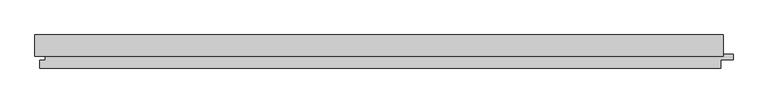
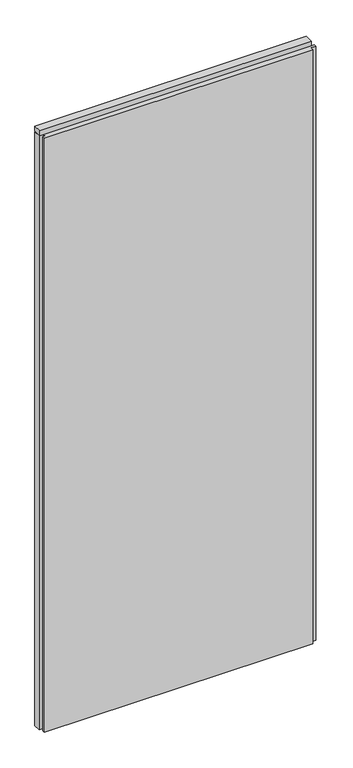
"""IFC4 building model written with IfcOpenShell, lengths in millimetres: plate geometry, Trimo_Qbiss Screen_Normal Panel-VERTICAL : HR - FB-F."""

from ifc_helpers import new_model, si_unit, frame, origin, place, context, project, spatial, polyline, outline, extrude, source, transform, mapped, element, save


def plate_48ea04e7(model_context):
    return source(origin(), model_context, "Body", "SweptSolid", [
        extrude(outline(polyline([(-513.0, 93.9), (-513.0, 126.0), (513.0, 126.0), (513.0, 93.9), (-513.0, 93.9)])), frame((0.0, 0.0, 2390.5), z_axis=(0.0, 0.0, 1.0), x_axis=(1.0, 0.0, 0.0)), (0.0, 0.0, 1.0), 19.0),
        extrude(outline(polyline([(509.0, 97.0), (527.5, 97.0), (527.5, 89.0), (509.0, 89.0), (509.0, 76.0), (-506.0, 76.0), (-506.0, 88.0), (-497.5, 88.0), (-497.5, 98.0), (-513.0, 98.0), (-513.0, 126.0), (509.0, 126.0), (509.0, 97.0)])), frame((0.0, 0.0, 12.5), z_axis=(0.0, 0.0, 1.0), x_axis=(1.0, 0.0, 0.0)), (0.0, 0.0, 1.0), 2375.0),
    ])


if __name__ == "__main__":
    model = new_model("IFC4")
    model_context = context("Model", 3, world=origin())
    ifc_project = project(units=[si_unit("LENGTHUNIT", "METRE", prefix="MILLI")], contexts=[model_context])
    site = spatial("IfcSite", under=ifc_project)
    building = spatial("IfcBuilding", under=site)
    placement = place(None, origin())
    plate_shape = plate_48ea04e7(model_context)
    element("IfcPlate", 1, ObjectType="Trimo_Qbiss Screen_Normal Panel-VERTICAL : HR - FB-F", at=placement, inside=building, context=model_context, shape_type="MappedRepresentation", body=[
        mapped(plate_shape, transform((0.0, 0.0, 0.0), x_axis=(1.0, 0.0, 0.0), y_axis=(0.0, 1.0, 0.0), z_axis=(0.0, 0.0, 1.0))),
    ])
    save(model, "model.ifc")
